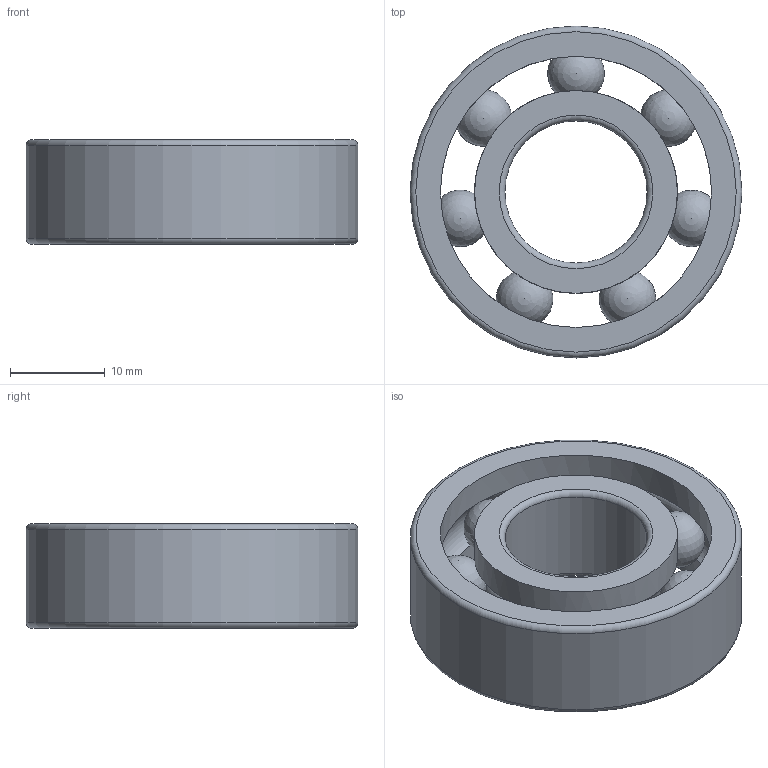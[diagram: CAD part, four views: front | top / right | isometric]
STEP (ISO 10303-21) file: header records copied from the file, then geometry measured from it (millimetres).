
FILE_DESCRIPTION(/* description */ ('SS BALL BEARING WITH RS1 SEALS'),/* implementation_level */ '2;1');
FILE_NAME(/* name */ 'SS6202-2RS.stp',/* time_stamp */ '2022-09-16T10:38:46+02:00',/* author */ ('ML'),/* organization */ ('CARRYLINE'),/* preprocessor_version */ 'ST-DEVELOPER v19.2',/* originating_system */ 'Autodesk Inventor 2023',/* authorisation */ '');
FILE_SCHEMA (('AUTOMOTIVE_DESIGN { 1 0 10303 214 3 1 1 }'));
Length unit declared in the file: millimetre
Products named in the file (1): SS6202-2RS
Bounding box: 35 x 35 x 11 mm (x, y, z)
Volume: 5664.6 mm3; surface area: 5286.5 mm2
Topology: 1 solids, 1 shells, 35 faces, 135 edges, 90 vertices
Faces by surface type: torus 18, sphere 7, cylinder 6, plane 4
Full cylindrical faces by diameter (mm): 15 x1, 21.4 x2, 28.6 x2, 35 x1
Entity records: 2083 total; most frequent: CARTESIAN_POINT 989, ORIENTED_EDGE 242, DIRECTION 196, EDGE_CURVE 121, AXIS2_PLACEMENT_3D 95, VERTEX_POINT 90, CIRCLE 59, B_SPLINE_CURVE_WITH_KNOTS 56
